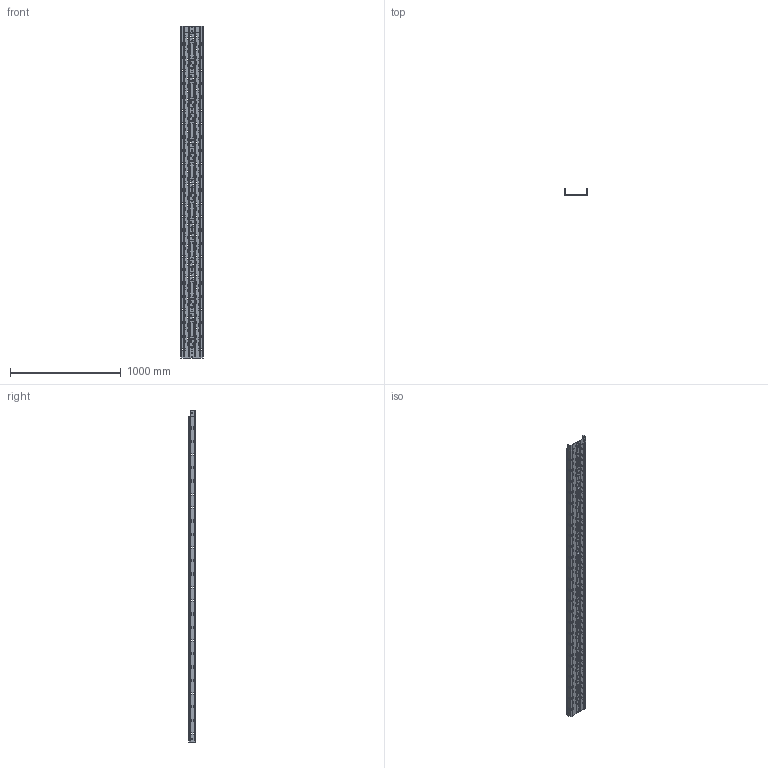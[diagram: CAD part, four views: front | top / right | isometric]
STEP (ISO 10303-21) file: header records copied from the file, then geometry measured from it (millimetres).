
FILE_DESCRIPTION (( 'STEP AP203' ), '1' );
FILE_NAME ('ERE 200x60.STEP', '2020-02-12T09:22:54', ( '' ), ( '' ), 'SwSTEP 2.0', 'SolidWorks 2019', '' );
FILE_SCHEMA (( 'CONFIG_CONTROL_DESIGN' ));
Products named in the file (1): ERE 200x60
Bounding box: 200 x 60.8 x 3000 mm (x, y, z)
Surface area: 1901799.7 mm2 (no closed solid volume)
Topology: 0 solids, 3 shells, 11722 faces, 34582 edges, 22944 vertices
Faces by surface type: plane 10614, cylinder 1004, torus 64, cone 40
Entity records: 385683 total; most frequent: CARTESIAN_POINT 69503, ORIENTED_EDGE 68996, DIRECTION 60122, EDGE_CURVE 34582, VECTOR 32324, LINE 32324, VERTEX_POINT 22944, AXIS2_PLACEMENT_3D 13899
